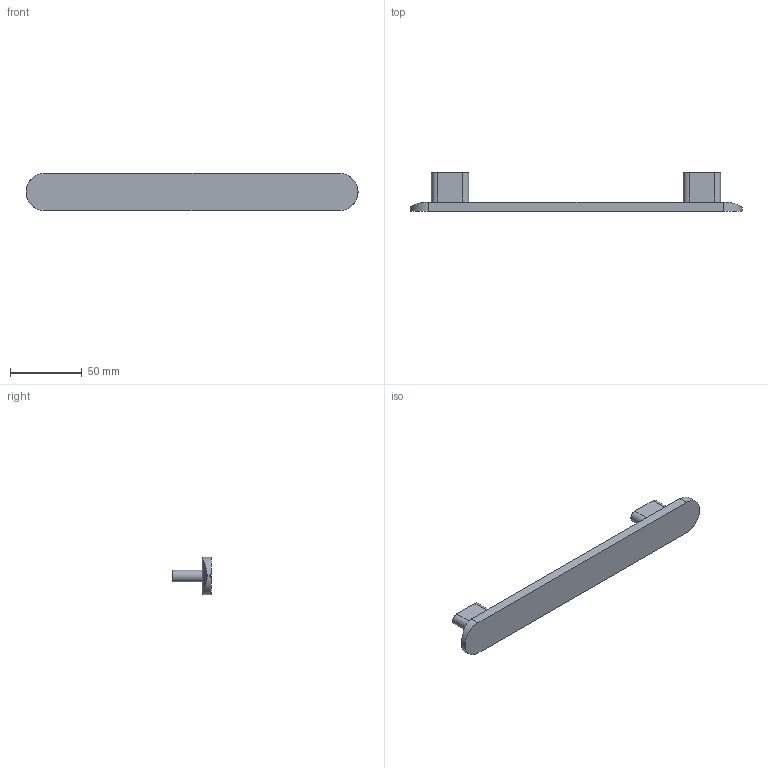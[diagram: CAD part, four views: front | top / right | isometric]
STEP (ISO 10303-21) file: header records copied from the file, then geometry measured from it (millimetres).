
FILE_DESCRIPTION( ( '' ), '1' );
FILE_NAME( 'C:/Documents and Settings/Sachin/Desktop/Sheet 10_1/stp/115184.stp', '2013-10-22T09:17:58', ( '' ), ( '' ), ' ', ' ', ' ' );
FILE_SCHEMA( ( 'CONFIG_CONTROL_DESIGN' ) );
Length unit declared in the file: millimetre
Products named in the file (1): 1
Bounding box: 232 x 27 x 26 mm (x, y, z)
Volume: 45191.3 mm3; surface area: 17758.4 mm2
Topology: 1 solids, 1 shells, 40 faces, 96 edges, 64 vertices
Faces by surface type: cylinder 22, plane 18
Entity records: 1424 total; most frequent: CARTESIAN_POINT 429, DIRECTION 202, ORIENTED_EDGE 192, EDGE_CURVE 96, AXIS2_PLACEMENT_3D 77, VERTEX_POINT 64, LINE 48, VECTOR 48
